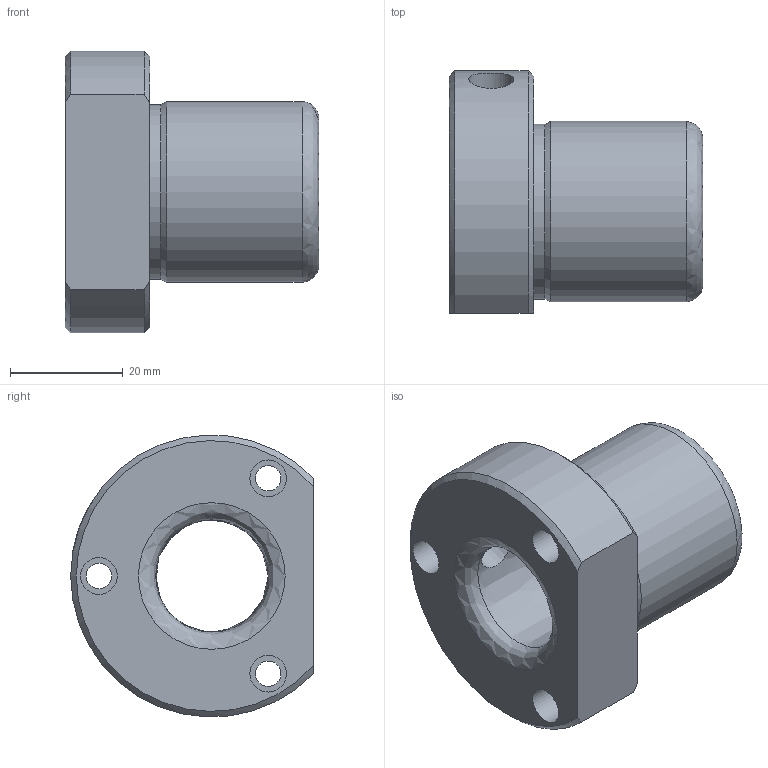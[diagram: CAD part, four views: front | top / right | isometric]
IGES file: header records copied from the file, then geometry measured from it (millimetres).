
Global section: file name: B5A20-2.ipt; native system: Autodesk Inventor 2021; preprocessor: unknown; author: SM; date: 20211220.172435; units: millimetre
Bounding box: 45 x 43 x 49.95 mm (x, y, z)
Volume: 34535.5 mm3; surface area: 11641.3 mm2
Topology: 1 solids, 1 shells, 22 faces, 60 edges, 43 vertices
Faces by surface type: revolution 10, plane 6, cylinder 3, cone 3
Full cylindrical faces by diameter (mm): 31 x1, 32 x1
